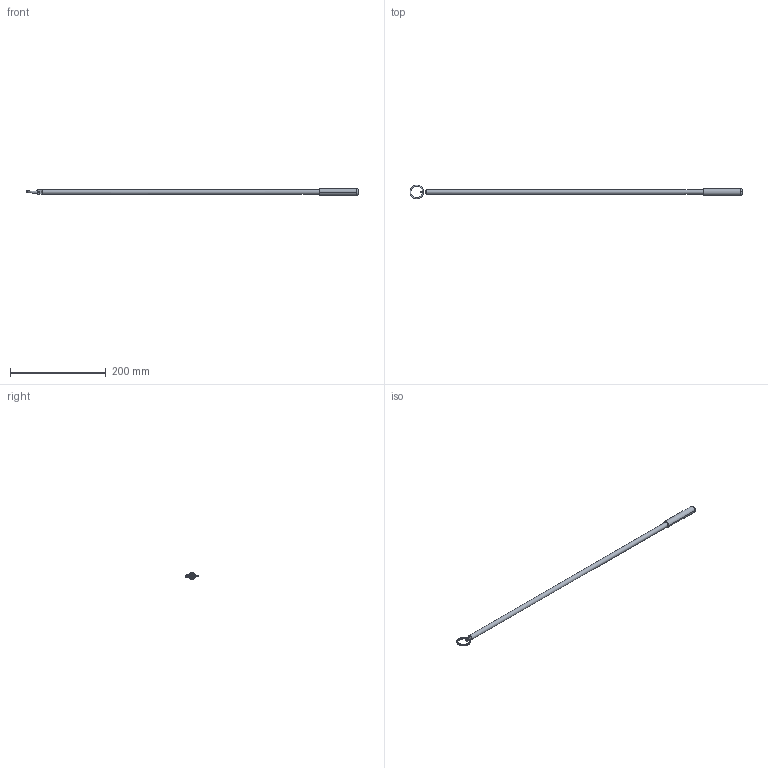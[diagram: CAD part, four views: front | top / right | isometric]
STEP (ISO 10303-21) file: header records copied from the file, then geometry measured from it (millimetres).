
FILE_DESCRIPTION(/* description */ ('Aluminium Rohr'),/* implementation_level */ '2;1');
FILE_NAME(/* name */ 'Q:\sge-ma\Produktmanagement-STB\STB\Workspace\stp\010332835.stp',/* time_stamp */ '2016-10-06T14:35:48+02:00',/* author */ ('avschreier'),/* organization */ (''),/* preprocessor_version */ 'ST-DEVELOPER v16.1',/* originating_system */ 'Autodesk Inventor 2016',/* authorisation */ '');
FILE_SCHEMA (('CONFIG_CONTROL_DESIGN'));
Length unit declared in the file: millimetre
Products named in the file (4): 337000363; Norelem_kunstoffgriff-05520-09; Norelem_Schlüsselring-03199-28; 010332835
Assembly tree (3 placements, depth 2):
  010332835
    337000363
    Norelem_kunstoffgriff-05520-09
    Norelem_Schlüsselring-03199-28
Bounding box: 692.63 x 28 x 14 mm (x, y, z)
Volume: 25303.2 mm3; surface area: 44429.5 mm2
Topology: 3 solids, 3 shells, 28 faces, 62 edges, 42 vertices
Faces by surface type: plane 10, cylinder 8, bspline 6, torus 4
Full cylindrical faces by diameter (mm): 4 x1, 8 x1, 10 x1
Entity records: 1263 total; most frequent: CARTESIAN_POINT 556, DIRECTION 146, ORIENTED_EDGE 114, AXIS2_PLACEMENT_3D 65, EDGE_CURVE 57, VERTEX_POINT 40, CIRCLE 36, EDGE_LOOP 35
